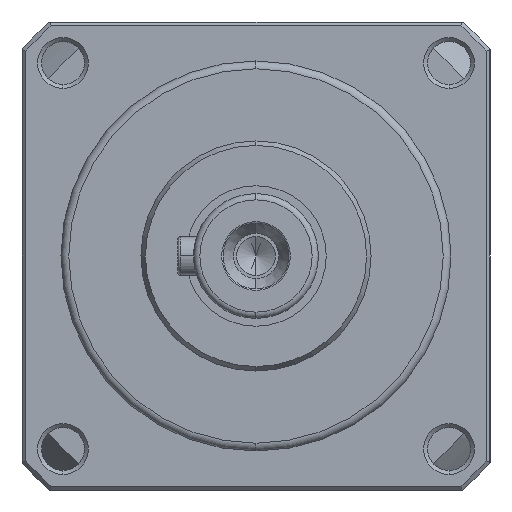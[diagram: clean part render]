
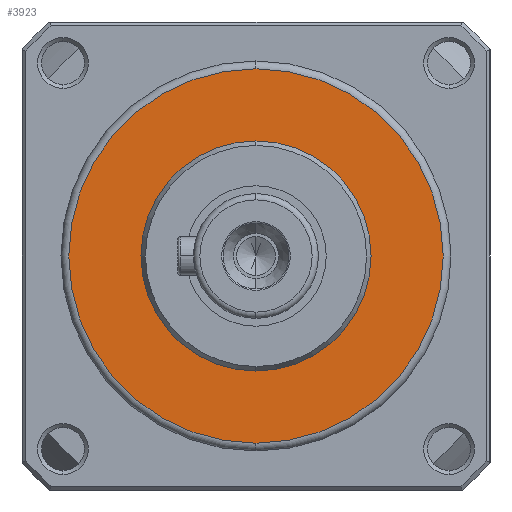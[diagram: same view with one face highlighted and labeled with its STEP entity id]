
A CAD part, left-side view. The second image highlights one B-rep face of the part: STEP entity #3923.
In plain terms, the highlighted planar face has unit normal (-1, 0, 0).
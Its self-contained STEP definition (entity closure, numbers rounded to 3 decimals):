
#16 = CARTESIAN_POINT ( 'NONE',  ( -126.02, 33.393, 0. ) ) ;
#74 = EDGE_LOOP ( 'NONE', ( #4197, #4500 ) ) ;
#209 = EDGE_CURVE ( 'NONE', #5461, #1997, #5826, .T. ) ;
#931 = DIRECTION ( 'NONE',  ( 0., 0., -1. ) ) ;
#1315 = DIRECTION ( 'NONE',  ( 0., 0., 1. ) ) ;
#1329 = DIRECTION ( 'NONE',  ( 1., 0., 0. ) ) ;
#1433 = ORIENTED_EDGE ( 'NONE', *, *, #7383, .T. ) ;
#1997 = VERTEX_POINT ( 'NONE', #6923 ) ;
#2226 = DIRECTION ( 'NONE',  ( 0., 0., 1. ) ) ;
#2318 = CIRCLE ( 'NONE', #7067, 14.75 ) ;
#2921 = ORIENTED_EDGE ( 'NONE', *, *, #4282, .T. ) ;
#2980 = CARTESIAN_POINT ( 'NONE',  ( -126.02, 33.393, -24. ) ) ;
#3041 = AXIS2_PLACEMENT_3D ( 'NONE', #16, #5138, #1315 ) ;
#3318 = CARTESIAN_POINT ( 'NONE',  ( -126.02, 33.393, 24. ) ) ;
#3382 = DIRECTION ( 'NONE',  ( -1., 0., 0. ) ) ;
#3493 = VERTEX_POINT ( 'NONE', #3318 ) ;
#3525 = CARTESIAN_POINT ( 'NONE',  ( -126.02, 33.393, -14.75 ) ) ;
#3578 = CARTESIAN_POINT ( 'NONE',  ( -126.02, 33.393, 0. ) ) ;
#3731 = CARTESIAN_POINT ( 'NONE',  ( -126.02, 33.393, 0. ) ) ;
#3785 = AXIS2_PLACEMENT_3D ( 'NONE', #6380, #1329, #7164 ) ;
#3788 = DIRECTION ( 'NONE',  ( 0., 0., -1. ) ) ;
#3899 = AXIS2_PLACEMENT_3D ( 'NONE', #3731, #4357, #3788 ) ;
#3923 = ADVANCED_FACE ( 'NONE', ( #7516, #7710 ), #8348, .F. ) ;
#4056 = CIRCLE ( 'NONE', #3899, 24. ) ;
#4197 = ORIENTED_EDGE ( 'NONE', *, *, #6951, .F. ) ;
#4282 = EDGE_CURVE ( 'NONE', #3493, #6826, #4056, .T. ) ;
#4357 = DIRECTION ( 'NONE',  ( -1., 0., 0. ) ) ;
#4500 = ORIENTED_EDGE ( 'NONE', *, *, #209, .F. ) ;
#4709 = CARTESIAN_POINT ( 'NONE',  ( -126.02, 33.393, 0. ) ) ;
#4882 = DIRECTION ( 'NONE',  ( -1., 0., 0. ) ) ;
#4956 = AXIS2_PLACEMENT_3D ( 'NONE', #4709, #3382, #931 ) ;
#5138 = DIRECTION ( 'NONE',  ( -1., 0., 0. ) ) ;
#5461 = VERTEX_POINT ( 'NONE', #3525 ) ;
#5826 = CIRCLE ( 'NONE', #3041, 14.75 ) ;
#6380 = CARTESIAN_POINT ( 'NONE',  ( -126.02, 48.143, 0. ) ) ;
#6826 = VERTEX_POINT ( 'NONE', #2980 ) ;
#6923 = CARTESIAN_POINT ( 'NONE',  ( -126.02, 33.393, 14.75 ) ) ;
#6951 = EDGE_CURVE ( 'NONE', #1997, #5461, #2318, .T. ) ;
#7067 = AXIS2_PLACEMENT_3D ( 'NONE', #3578, #4882, #2226 ) ;
#7164 = DIRECTION ( 'NONE',  ( 0., 0., -1. ) ) ;
#7383 = EDGE_CURVE ( 'NONE', #6826, #3493, #7541, .T. ) ;
#7516 = FACE_OUTER_BOUND ( 'NONE', #8205, .T. ) ;
#7541 = CIRCLE ( 'NONE', #4956, 24. ) ;
#7710 = FACE_BOUND ( 'NONE', #74, .T. ) ;
#8205 = EDGE_LOOP ( 'NONE', ( #1433, #2921 ) ) ;
#8348 = PLANE ( 'NONE',  #3785 ) ;
